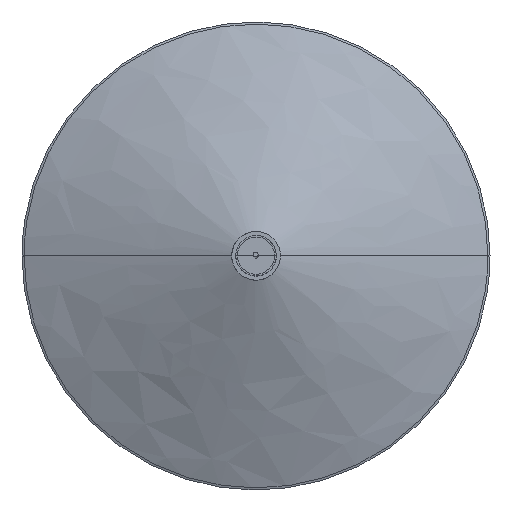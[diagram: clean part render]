
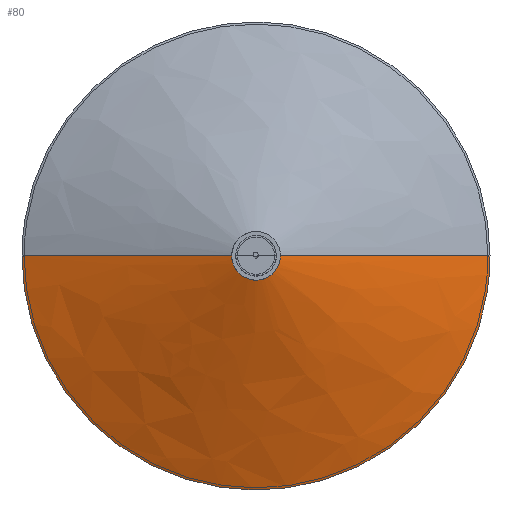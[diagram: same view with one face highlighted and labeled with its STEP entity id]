
A CAD part, top view. The second image highlights one B-rep face of the part: STEP entity #80.
In plain terms, the highlighted free-form (B-spline) face has degree [1, 2] with [2, 5] control points.
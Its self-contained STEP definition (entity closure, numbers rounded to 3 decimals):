
#30=B_SPLINE_CURVE_WITH_KNOTS('',1,(#1133,#1134),.UNSPECIFIED.,.F.,.F.,
(2,2),(5.054,284.313),.UNSPECIFIED.);
#33=B_SPLINE_CURVE_WITH_KNOTS('',1,(#1179,#1180),.UNSPECIFIED.,.F.,.F.,
(2,2),(5.054,284.313),.UNSPECIFIED.);
#80=ADVANCED_FACE('',(#118),#502,.T.);
#118=FACE_OUTER_BOUND('',#158,.T.);
#158=EDGE_LOOP('',(#276,#277,#278,#279));
#276=ORIENTED_EDGE('',*,*,#373,.F.);
#277=ORIENTED_EDGE('',*,*,#372,.T.);
#278=ORIENTED_EDGE('',*,*,#374,.T.);
#279=ORIENTED_EDGE('',*,*,#383,.F.);
#372=EDGE_CURVE('',#471,#470,#30,.T.);
#373=EDGE_CURVE('',#471,#474,#427,.T.);
#374=EDGE_CURVE('',#470,#475,#428,.T.);
#383=EDGE_CURVE('',#474,#475,#33,.T.);
#427=(
BOUNDED_CURVE()
B_SPLINE_CURVE(2,(#1135,#1136,#1137,#1138,#1139),.UNSPECIFIED.,.F.,.F.)
B_SPLINE_CURVE_WITH_KNOTS((3,2,3),(0.,452.738,905.477),
 .UNSPECIFIED.)
CURVE()
GEOMETRIC_REPRESENTATION_ITEM()
RATIONAL_B_SPLINE_CURVE((1.,0.707,1.,0.707,1.))
REPRESENTATION_ITEM('')
);
#428=(
BOUNDED_CURVE()
B_SPLINE_CURVE(2,(#1140,#1141,#1142,#1143,#1144),.UNSPECIFIED.,.F.,.F.)
B_SPLINE_CURVE_WITH_KNOTS((3,2,3),(0.,452.738,905.477),
 .UNSPECIFIED.)
CURVE()
GEOMETRIC_REPRESENTATION_ITEM()
RATIONAL_B_SPLINE_CURVE((1.,0.707,1.,0.707,1.))
REPRESENTATION_ITEM('')
);
#470=VERTEX_POINT('',#1110);
#471=VERTEX_POINT('',#1111);
#474=VERTEX_POINT('',#1114);
#475=VERTEX_POINT('',#1115);
#502=(
BOUNDED_SURFACE()
B_SPLINE_SURFACE(1,2,((#1006,#1007,#1008,#1009,#1010),(#1011,#1012,#1013,
#1014,#1015)),.UNSPECIFIED.,.F.,.F.,.F.)
B_SPLINE_SURFACE_WITH_KNOTS((2,2),(3,2,3),(5.054,284.313),
(0.,452.738,905.477),.UNSPECIFIED.)
GEOMETRIC_REPRESENTATION_ITEM()
RATIONAL_B_SPLINE_SURFACE(((1.,0.707,1.,0.707,1.),
(1.,0.707,1.,0.707,1.)))
REPRESENTATION_ITEM('')
SURFACE()
);
#1006=CARTESIAN_POINT('',(2391.245,0.,3.797));
#1007=CARTESIAN_POINT('',(2391.245,-30.054,3.797));
#1008=CARTESIAN_POINT('',(2421.299,-30.054,3.797));
#1009=CARTESIAN_POINT('',(2451.353,-30.054,3.797));
#1010=CARTESIAN_POINT('',(2451.353,0.,3.797));
#1011=CARTESIAN_POINT('',(2132.507,0.,-101.276));
#1012=CARTESIAN_POINT('',(2132.507,-288.791,-101.276));
#1013=CARTESIAN_POINT('',(2421.299,-288.791,-101.276));
#1014=CARTESIAN_POINT('',(2710.09,-288.791,-101.276));
#1015=CARTESIAN_POINT('',(2710.09,0.,-101.276));
#1110=CARTESIAN_POINT('',(2132.507,0.,-101.276));
#1111=CARTESIAN_POINT('',(2391.245,0.,3.797));
#1114=CARTESIAN_POINT('',(2451.353,0.,3.797));
#1115=CARTESIAN_POINT('',(2710.09,0.,-101.276));
#1133=CARTESIAN_POINT('',(2391.245,0.,3.797));
#1134=CARTESIAN_POINT('',(2132.507,0.,-101.276));
#1135=CARTESIAN_POINT('',(2391.245,0.,3.797));
#1136=CARTESIAN_POINT('',(2391.245,-30.054,3.797));
#1137=CARTESIAN_POINT('',(2421.299,-30.054,3.797));
#1138=CARTESIAN_POINT('',(2451.353,-30.054,3.797));
#1139=CARTESIAN_POINT('',(2451.353,0.,3.797));
#1140=CARTESIAN_POINT('',(2132.507,0.,-101.276));
#1141=CARTESIAN_POINT('',(2132.507,-288.791,-101.276));
#1142=CARTESIAN_POINT('',(2421.299,-288.791,-101.276));
#1143=CARTESIAN_POINT('',(2710.09,-288.791,-101.276));
#1144=CARTESIAN_POINT('',(2710.09,0.,-101.276));
#1179=CARTESIAN_POINT('',(2451.353,0.,3.797));
#1180=CARTESIAN_POINT('',(2710.09,0.,-101.276));
